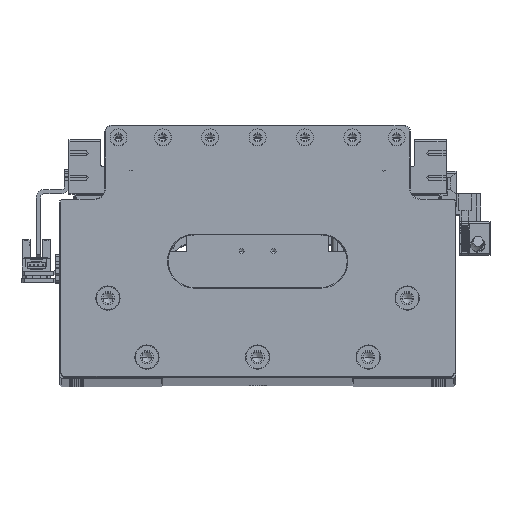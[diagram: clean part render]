
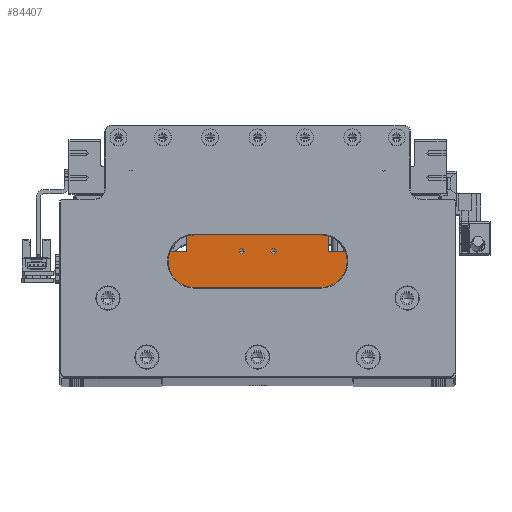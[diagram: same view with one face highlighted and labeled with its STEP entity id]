
A CAD part, top view. The second image highlights one B-rep face of the part: STEP entity #84407.
In plain terms, the highlighted planar face has unit normal (0, 0, 1).
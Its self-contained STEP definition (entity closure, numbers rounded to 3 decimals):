
#648 = ORIENTED_EDGE ( 'NONE', *, *, #55726, .T. ) ;
#1000 = VERTEX_POINT ( 'NONE', #22518 ) ;
#1658 = CARTESIAN_POINT ( 'NONE',  ( -45., -8., 90. ) ) ;
#2175 = ORIENTED_EDGE ( 'NONE', *, *, #7552, .T. ) ;
#2660 = EDGE_CURVE ( 'NONE', #33269, #63198, #88615, .T. ) ;
#2704 = AXIS2_PLACEMENT_3D ( 'NONE', #115076, #59989, #4946 ) ;
#2835 = EDGE_CURVE ( 'NONE', #34022, #33765, #77030, .T. ) ;
#3093 = CARTESIAN_POINT ( 'NONE',  ( 33.5, -8., 90. ) ) ;
#4167 = VERTEX_POINT ( 'NONE', #22698 ) ;
#4946 = DIRECTION ( 'NONE',  ( 1., 0., 0. ) ) ;
#7060 = LINE ( 'NONE', #22475, #77455 ) ;
#7394 = CARTESIAN_POINT ( 'NONE',  ( -7.5, -8., 90. ) ) ;
#7552 = EDGE_CURVE ( 'NONE', #31156, #92886, #50478, .T. ) ;
#7819 = FACE_OUTER_BOUND ( 'NONE', #55457, .T. ) ;
#9912 = AXIS2_PLACEMENT_3D ( 'NONE', #7394, #71653, #16629 ) ;
#10765 = CARTESIAN_POINT ( 'NONE',  ( -33.5, 0., 90. ) ) ;
#11005 = ORIENTED_EDGE ( 'NONE', *, *, #104822, .T. ) ;
#12057 = ORIENTED_EDGE ( 'NONE', *, *, #118359, .T. ) ;
#13033 = CIRCLE ( 'NONE', #25975, 1.25 ) ;
#13787 = ORIENTED_EDGE ( 'NONE', *, *, #98970, .T. ) ;
#16144 = EDGE_CURVE ( 'NONE', #92886, #31156, #13033, .T. ) ;
#16629 = DIRECTION ( 'NONE',  ( 1., 0., 0. ) ) ;
#17448 = AXIS2_PLACEMENT_3D ( 'NONE', #107357, #52284, #116554 ) ;
#19736 = CARTESIAN_POINT ( 'NONE',  ( -45., -40., 90. ) ) ;
#22475 = CARTESIAN_POINT ( 'NONE',  ( 44.8, 0., 90. ) ) ;
#22518 = CARTESIAN_POINT ( 'NONE',  ( 44.8, -40., 90. ) ) ;
#22698 = CARTESIAN_POINT ( 'NONE',  ( 44.8, -8., 90. ) ) ;
#25185 = LINE ( 'NONE', #56690, #55366 ) ;
#25975 = AXIS2_PLACEMENT_3D ( 'NONE', #108029, #52979, #117232 ) ;
#28024 = ORIENTED_EDGE ( 'NONE', *, *, #32396, .T. ) ;
#28752 = CARTESIAN_POINT ( 'NONE',  ( 33.5, 0., 90. ) ) ;
#31156 = VERTEX_POINT ( 'NONE', #78555 ) ;
#32396 = EDGE_CURVE ( 'NONE', #1000, #4167, #7060, .T. ) ;
#33269 = VERTEX_POINT ( 'NONE', #1658 ) ;
#33765 = VERTEX_POINT ( 'NONE', #54633 ) ;
#34022 = VERTEX_POINT ( 'NONE', #57391 ) ;
#35221 = VECTOR ( 'NONE', #37962, 1000. ) ;
#35527 = CARTESIAN_POINT ( 'NONE',  ( 0., -8., 90. ) ) ;
#36682 = DIRECTION ( 'NONE',  ( 0., 0., -1. ) ) ;
#36959 = LINE ( 'NONE', #35527, #82977 ) ;
#37962 = DIRECTION ( 'NONE',  ( 0., 1., 0. ) ) ;
#38060 = LINE ( 'NONE', #28752, #35221 ) ;
#39358 = DIRECTION ( 'NONE',  ( 0., -1., 0. ) ) ;
#40002 = AXIS2_PLACEMENT_3D ( 'NONE', #91764, #36682, #100972 ) ;
#41461 = ORIENTED_EDGE ( 'NONE', *, *, #60662, .T. ) ;
#42055 = LINE ( 'NONE', #10765, #66428 ) ;
#42657 = PLANE ( 'NONE',  #17448 ) ;
#43449 = EDGE_LOOP ( 'NONE', ( #88288, #2175 ) ) ;
#43772 = ORIENTED_EDGE ( 'NONE', *, *, #112298, .T. ) ;
#47489 = DIRECTION ( 'NONE',  ( -1., 0., 0. ) ) ;
#50478 = CIRCLE ( 'NONE', #9912, 1.25 ) ;
#52284 = DIRECTION ( 'NONE',  ( 0., 0., 1. ) ) ;
#52979 = DIRECTION ( 'NONE',  ( 0., 0., -1. ) ) ;
#54633 = CARTESIAN_POINT ( 'NONE',  ( -33.5, -0.2, 90. ) ) ;
#55366 = VECTOR ( 'NONE', #47489, 1000. ) ;
#55457 = EDGE_LOOP ( 'NONE', ( #648, #76016, #85577, #28024, #43772, #12057, #69703, #41461 ) ) ;
#55726 = EDGE_CURVE ( 'NONE', #82671, #33269, #36959, .T. ) ;
#56562 = DIRECTION ( 'NONE',  ( 0., -1., 0. ) ) ;
#56667 = FACE_BOUND ( 'NONE', #110853, .T. ) ;
#56690 = CARTESIAN_POINT ( 'NONE',  ( 0., -8., 90. ) ) ;
#57391 = CARTESIAN_POINT ( 'NONE',  ( 33.5, -0.2, 90. ) ) ;
#59443 = CARTESIAN_POINT ( 'NONE',  ( 0., -0.2, 90. ) ) ;
#59989 = DIRECTION ( 'NONE',  ( 0., 0., -1. ) ) ;
#60008 = CIRCLE ( 'NONE', #40002, 1.25 ) ;
#60662 = EDGE_CURVE ( 'NONE', #33765, #82671, #42055, .T. ) ;
#63198 = VERTEX_POINT ( 'NONE', #87982 ) ;
#64090 = VECTOR ( 'NONE', #39358, 1000. ) ;
#66278 = CARTESIAN_POINT ( 'NONE',  ( -6.25, -8., 90. ) ) ;
#66428 = VECTOR ( 'NONE', #56562, 1000. ) ;
#66488 = CARTESIAN_POINT ( 'NONE',  ( 8.75, -8., 90. ) ) ;
#69703 = ORIENTED_EDGE ( 'NONE', *, *, #2835, .T. ) ;
#71653 = DIRECTION ( 'NONE',  ( 0., 0., -1. ) ) ;
#72280 = CARTESIAN_POINT ( 'NONE',  ( -33.5, -8., 90. ) ) ;
#76016 = ORIENTED_EDGE ( 'NONE', *, *, #2660, .T. ) ;
#77030 = LINE ( 'NONE', #59443, #98640 ) ;
#77455 = VECTOR ( 'NONE', #87169, 1000. ) ;
#77916 = DIRECTION ( 'NONE',  ( -1., 0., 0. ) ) ;
#78555 = CARTESIAN_POINT ( 'NONE',  ( -8.75, -8., 90. ) ) ;
#82671 = VERTEX_POINT ( 'NONE', #72280 ) ;
#82977 = VECTOR ( 'NONE', #109083, 1000. ) ;
#83033 = VERTEX_POINT ( 'NONE', #97215 ) ;
#84018 = FACE_BOUND ( 'NONE', #43449, .T. ) ;
#84024 = DIRECTION ( 'NONE',  ( 1., 0., 0. ) ) ;
#84407 = ADVANCED_FACE ( 'NONE', ( #7819, #56667, #84018 ), #42657, .T. ) ;
#85577 = ORIENTED_EDGE ( 'NONE', *, *, #91804, .T. ) ;
#87169 = DIRECTION ( 'NONE',  ( 0., 1., 0. ) ) ;
#87982 = CARTESIAN_POINT ( 'NONE',  ( -45., -40., 90. ) ) ;
#88063 = VECTOR ( 'NONE', #84024, 1000. ) ;
#88288 = ORIENTED_EDGE ( 'NONE', *, *, #16144, .T. ) ;
#88615 = LINE ( 'NONE', #94447, #64090 ) ;
#91764 = CARTESIAN_POINT ( 'NONE',  ( 7.5, -8., 90. ) ) ;
#91804 = EDGE_CURVE ( 'NONE', #63198, #1000, #112468, .T. ) ;
#91968 = CIRCLE ( 'NONE', #2704, 1.25 ) ;
#92886 = VERTEX_POINT ( 'NONE', #66278 ) ;
#94382 = VERTEX_POINT ( 'NONE', #66488 ) ;
#94447 = CARTESIAN_POINT ( 'NONE',  ( -45., 0., 90. ) ) ;
#97215 = CARTESIAN_POINT ( 'NONE',  ( 6.25, -8., 90. ) ) ;
#97988 = VERTEX_POINT ( 'NONE', #3093 ) ;
#98640 = VECTOR ( 'NONE', #77916, 1000. ) ;
#98970 = EDGE_CURVE ( 'NONE', #83033, #94382, #60008, .T. ) ;
#100972 = DIRECTION ( 'NONE',  ( 1., 0., 0. ) ) ;
#104822 = EDGE_CURVE ( 'NONE', #94382, #83033, #91968, .T. ) ;
#107357 = CARTESIAN_POINT ( 'NONE',  ( 0., 0., 90. ) ) ;
#108029 = CARTESIAN_POINT ( 'NONE',  ( -7.5, -8., 90. ) ) ;
#109083 = DIRECTION ( 'NONE',  ( -1., 0., 0. ) ) ;
#110853 = EDGE_LOOP ( 'NONE', ( #11005, #13787 ) ) ;
#112298 = EDGE_CURVE ( 'NONE', #4167, #97988, #25185, .T. ) ;
#112468 = LINE ( 'NONE', #19736, #88063 ) ;
#115076 = CARTESIAN_POINT ( 'NONE',  ( 7.5, -8., 90. ) ) ;
#116554 = DIRECTION ( 'NONE',  ( 1., 0., 0. ) ) ;
#117232 = DIRECTION ( 'NONE',  ( 1., 0., 0. ) ) ;
#118359 = EDGE_CURVE ( 'NONE', #97988, #34022, #38060, .T. ) ;
